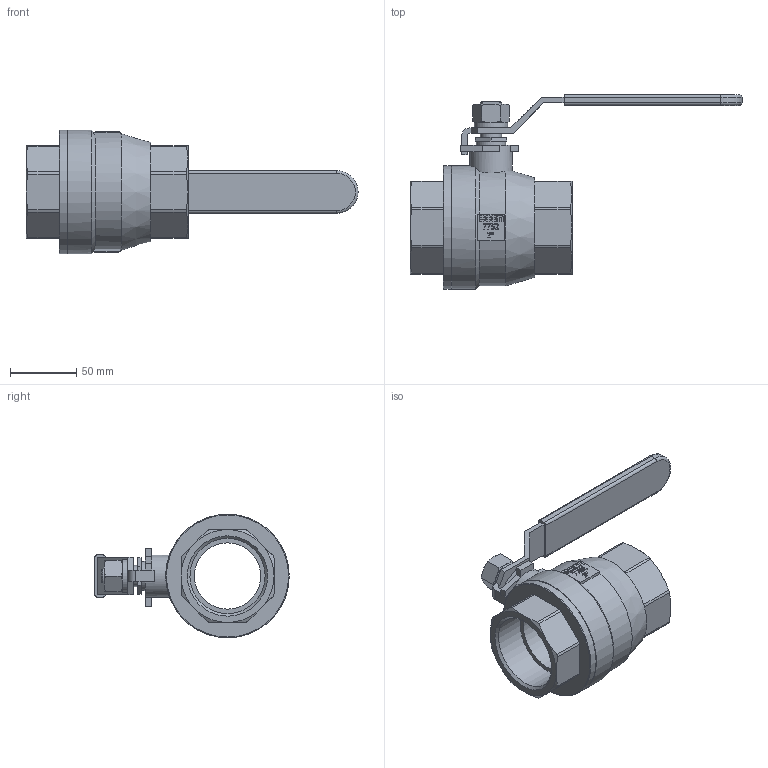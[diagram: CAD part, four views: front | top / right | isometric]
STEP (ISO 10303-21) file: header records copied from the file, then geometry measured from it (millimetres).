
FILE_DESCRIPTION(/* description */ ('Eriks item no: 12427456'),/* implementation_level */ '2;1');
FILE_NAME(/* name */ '7752-DN50-FB-1000PSI-BSPP.stp',/* time_stamp */ '2024-02-16T16:36:02+01:00',/* author */ ('roger.thijssen'),/* organization */ (''),/* preprocessor_version */ 'ST-DEVELOPER v19.2',/* originating_system */ 'Autodesk Inventor 2024',/* authorisation */ '');
FILE_SCHEMA (('AUTOMOTIVE_DESIGN { 1 0 10303 214 3 1 1 }'));
Length unit declared in the file: millimetre
Products named in the file (1): Ball valve, 7752-DN50-FB-1000PSI-BSPP
Bounding box: 250 x 146.5 x 93 mm (x, y, z)
Volume: 437690.1 mm3; surface area: 79806.8 mm2
Topology: 1 solids, 1 shells, 1119 faces, 3062 edges, 2021 vertices
Faces by surface type: plane 887, bspline 109, cylinder 84, cone 36, torus 3
Full cylindrical faces by diameter (mm): 8 x2, 16 x1, 22 x1, 25 x1, 32 x1, 50 x1, 56.656 x2, 92.985 x1, 93 x1
Entity records: 37440 total; most frequent: CARTESIAN_POINT 8577, ORIENTED_EDGE 6124, DIRECTION 5031, EDGE_CURVE 3062, LINE 2541, VECTOR 2541, VERTEX_POINT 2021, AXIS2_PLACEMENT_3D 1245
